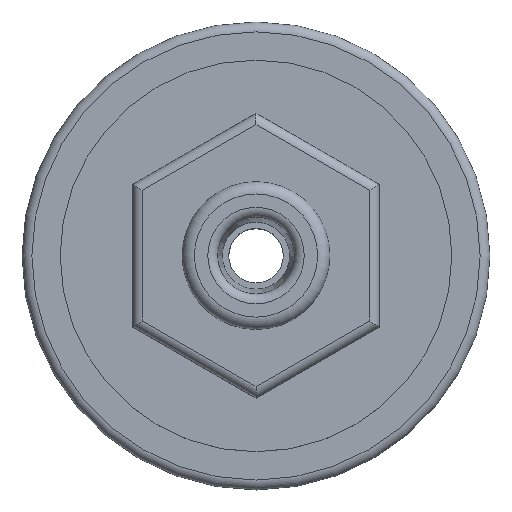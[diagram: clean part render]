
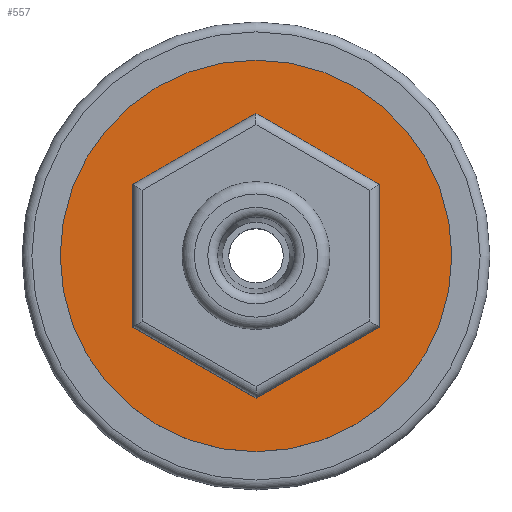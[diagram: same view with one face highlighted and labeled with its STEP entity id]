
A CAD part, top view. The second image highlights one B-rep face of the part: STEP entity #557.
In plain terms, the highlighted planar face has unit normal (0, 0, 1).
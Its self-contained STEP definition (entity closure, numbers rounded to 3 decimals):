
#30=LINE('',#888,#65);
#31=LINE('',#890,#66);
#51=LINE('',#993,#86);
#54=LINE('',#998,#89);
#56=LINE('',#1002,#91);
#57=LINE('',#1017,#92);
#58=LINE('',#1019,#93);
#65=VECTOR('',#711,10.);
#66=VECTOR('',#712,10.);
#86=VECTOR('',#794,10.);
#89=VECTOR('',#799,10.);
#91=VECTOR('',#803,10.);
#92=VECTOR('',#826,10.);
#93=VECTOR('',#829,10.);
#113=FACE_BOUND('',#200,.T.);
#127=PLANE('',#651);
#160=FACE_OUTER_BOUND('',#199,.T.);
#199=EDGE_LOOP('',(#512));
#200=EDGE_LOOP('',(#513,#514,#515,#516,#517,#518,#519));
#235=CIRCLE('',#650,7.95);
#249=VERTEX_POINT('',#875);
#254=VERTEX_POINT('',#886);
#255=VERTEX_POINT('',#889);
#278=VERTEX_POINT('',#990);
#279=VERTEX_POINT('',#992);
#280=VERTEX_POINT('',#996);
#281=VERTEX_POINT('',#1000);
#285=VERTEX_POINT('',#1021);
#309=EDGE_CURVE('',#249,#254,#30,.T.);
#310=EDGE_CURVE('',#255,#249,#31,.T.);
#350=EDGE_CURVE('',#279,#278,#51,.T.);
#353=EDGE_CURVE('',#278,#280,#54,.T.);
#355=EDGE_CURVE('',#280,#281,#56,.T.);
#360=EDGE_CURVE('',#281,#255,#57,.T.);
#361=EDGE_CURVE('',#254,#279,#58,.T.);
#362=EDGE_CURVE('',#285,#285,#235,.T.);
#512=ORIENTED_EDGE('',*,*,#362,.T.);
#513=ORIENTED_EDGE('',*,*,#350,.T.);
#514=ORIENTED_EDGE('',*,*,#353,.T.);
#515=ORIENTED_EDGE('',*,*,#355,.T.);
#516=ORIENTED_EDGE('',*,*,#360,.T.);
#517=ORIENTED_EDGE('',*,*,#310,.T.);
#518=ORIENTED_EDGE('',*,*,#309,.T.);
#519=ORIENTED_EDGE('',*,*,#361,.T.);
#557=ADVANCED_FACE('',(#160,#113),#127,.T.);
#650=AXIS2_PLACEMENT_3D('',#1022,#832,#833);
#651=AXIS2_PLACEMENT_3D('',#1024,#835,#836);
#711=DIRECTION('',(0.866,0.5,0.));
#712=DIRECTION('',(0.866,0.5,0.));
#794=DIRECTION('',(0.,-1.,0.));
#799=DIRECTION('',(-0.866,-0.5,0.));
#803=DIRECTION('',(-0.866,0.5,0.));
#826=DIRECTION('',(0.,1.,0.));
#829=DIRECTION('',(0.866,-0.5,0.));
#832=DIRECTION('center_axis',(0.,0.,1.));
#833=DIRECTION('ref_axis',(-1.,0.,0.));
#835=DIRECTION('center_axis',(0.,0.,1.));
#836=DIRECTION('ref_axis',(1.,0.,0.));
#875=CARTESIAN_POINT('',(-2.499,4.331,3.));
#886=CARTESIAN_POINT('',(0.,5.774,3.));
#888=CARTESIAN_POINT('',(-1.25,5.052,3.));
#889=CARTESIAN_POINT('',(-5.,2.887,3.));
#890=CARTESIAN_POINT('',(-1.25,5.052,3.));
#990=CARTESIAN_POINT('',(5.,-2.887,3.));
#992=CARTESIAN_POINT('',(5.,2.887,3.));
#993=CARTESIAN_POINT('',(5.,-1.443,3.));
#996=CARTESIAN_POINT('',(0.,-5.774,3.));
#998=CARTESIAN_POINT('',(1.25,-5.052,3.));
#1000=CARTESIAN_POINT('',(-5.,-2.887,3.));
#1002=CARTESIAN_POINT('',(-3.75,-3.608,3.));
#1017=CARTESIAN_POINT('',(-5.,1.443,3.));
#1019=CARTESIAN_POINT('',(3.75,3.608,3.));
#1021=CARTESIAN_POINT('',(7.95,0.,3.));
#1022=CARTESIAN_POINT('Origin',(0.,0.,3.));
#1024=CARTESIAN_POINT('Origin',(0.,0.,
3.));
